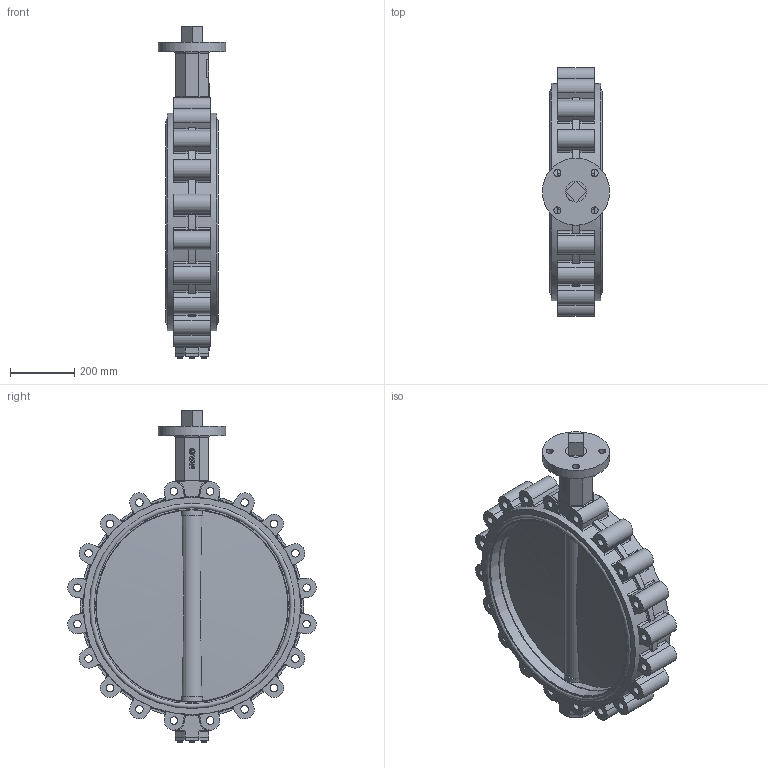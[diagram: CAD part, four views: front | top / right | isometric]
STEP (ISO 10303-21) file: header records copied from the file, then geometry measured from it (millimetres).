
FILE_DESCRIPTION(('STEP AP242'), '1');
FILE_NAME('Ïîâîðîòíûé çàòâîð ïîä ýëåêòðîïðèâîä', '', ('UNSPECIFIED'), ('UNSPECIFIED'), 'C3D Converter', 'C3D Toolkit', '');
FILE_SCHEMA(('AP242_MANAGED_MODEL_BASED_3D_ENGINEERING_MIM_LF { 1 0 10303 442 1 1 4 }'));
Length unit declared in the file: millimetre
Products named in the file (8): П
Assembly tree (11 placements, depth 2):
  (unnamed)
    (unnamed)
    П  x2
    (unnamed)
    (unnamed)
    (unnamed)
    (unnamed)
    (unnamed)  x4
Bounding box: 210 x 776.06 x 1037 mm (x, y, z)
Volume: 32637380.2 mm3; surface area: 3132834.1 mm2
Topology: 11 solids, 11 shells, 985 faces, 2509 edges, 1591 vertices
Faces by surface type: plane 367, cylinder 302, extrusion 159, torus 134, cone 19, sphere 4
Full cylindrical faces by diameter (mm): 8 x4, 10 x12, 16 x8, 18.845 x1, 22 x4, 23.752 x20, 46 x5, 50.6 x1, 65.054 x5, 73.15 x4, 210 x1, 600 x1, 602.5 x2, 612.5 x2, 626.75 x4, 641 x4, 678.733 x2
Entity records: 36564 total; most frequent: CARTESIAN_POINT 12238, ORIENTED_EDGE 4546, DIRECTION 4291, EDGE_CURVE 2273, AXIS2_PLACEMENT_3D 1552, VERTEX_POINT 1499, VECTOR 1187, EDGE_LOOP 1108
